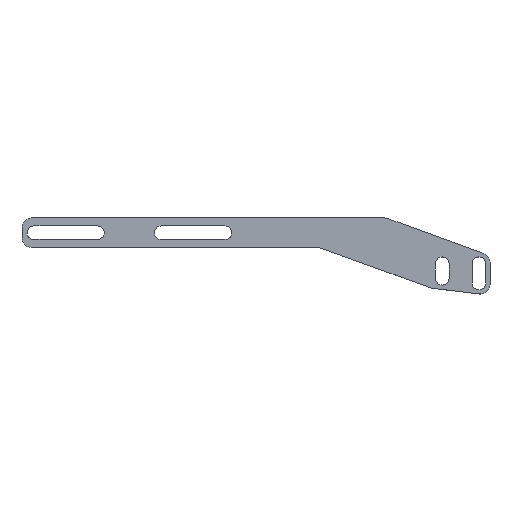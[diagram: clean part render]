
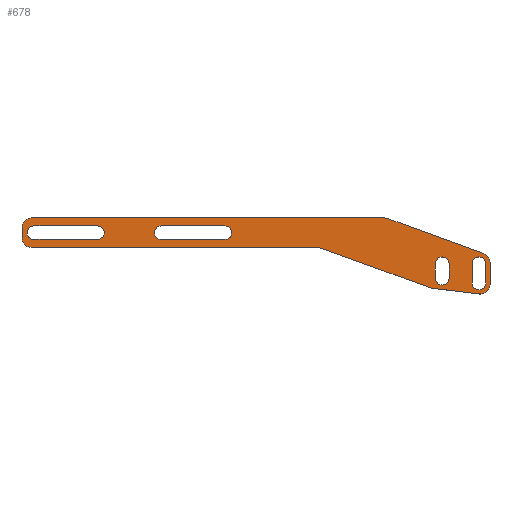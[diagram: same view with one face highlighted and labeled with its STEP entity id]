
A CAD part, top view. The second image highlights one B-rep face of the part: STEP entity #678.
In plain terms, the highlighted planar face has unit normal (0, 0, 1).
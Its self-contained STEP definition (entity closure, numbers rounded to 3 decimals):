
#19=FACE_BOUND('',#113,.T.);
#20=FACE_BOUND('',#114,.T.);
#21=FACE_BOUND('',#115,.T.);
#22=FACE_BOUND('',#116,.T.);
#40=PLANE('',#767);
#74=FACE_OUTER_BOUND('',#112,.T.);
#112=EDGE_LOOP('',(#597,#598,#599,#600,#601,#602,#603,#604,#605,#606,#607,
#608,#609,#610,#611,#612));
#113=EDGE_LOOP('',(#613,#614,#615,#616));
#114=EDGE_LOOP('',(#617,#618,#619,#620));
#115=EDGE_LOOP('',(#621,#622,#623,#624));
#116=EDGE_LOOP('',(#625,#626,#627,#628));
#121=LINE('',#981,#185);
#139=LINE('',#1049,#203);
#142=LINE('',#1057,#206);
#145=LINE('',#1066,#209);
#150=LINE('',#1079,#214);
#153=LINE('',#1087,#217);
#157=LINE('',#1100,#221);
#160=LINE('',#1107,#224);
#163=LINE('',#1116,#227);
#166=LINE('',#1123,#230);
#169=LINE('',#1132,#233);
#172=LINE('',#1139,#236);
#175=LINE('',#1148,#239);
#178=LINE('',#1155,#242);
#179=LINE('',#1157,#243);
#180=LINE('',#1159,#244);
#185=VECTOR('',#782,10.);
#203=VECTOR('',#838,10.);
#206=VECTOR('',#847,10.);
#209=VECTOR('',#856,10.);
#214=VECTOR('',#871,10.);
#217=VECTOR('',#880,10.);
#221=VECTOR('',#894,10.);
#224=VECTOR('',#903,10.);
#227=VECTOR('',#912,10.);
#230=VECTOR('',#921,10.);
#233=VECTOR('',#930,10.);
#236=VECTOR('',#939,10.);
#239=VECTOR('',#948,10.);
#242=VECTOR('',#957,10.);
#243=VECTOR('',#960,10.);
#244=VECTOR('',#963,10.);
#245=CIRCLE('',#703,6.);
#262=CIRCLE('',#723,6.);
#263=CIRCLE('',#726,6.);
#264=CIRCLE('',#729,6.);
#265=CIRCLE('',#732,6.);
#266=CIRCLE('',#734,6.);
#267=CIRCLE('',#737,6.);
#268=CIRCLE('',#740,6.);
#269=CIRCLE('',#742,4.25);
#270=CIRCLE('',#745,4.25);
#271=CIRCLE('',#748,4.25);
#272=CIRCLE('',#751,4.25);
#273=CIRCLE('',#754,4.25);
#274=CIRCLE('',#757,4.25);
#275=CIRCLE('',#760,4.25);
#276=CIRCLE('',#763,4.25);
#277=VERTEX_POINT('',#968);
#278=VERTEX_POINT('',#969);
#282=VERTEX_POINT('',#979);
#312=VERTEX_POINT('',#1043);
#313=VERTEX_POINT('',#1047);
#314=VERTEX_POINT('',#1051);
#315=VERTEX_POINT('',#1055);
#316=VERTEX_POINT('',#1059);
#317=VERTEX_POINT('',#1060);
#318=VERTEX_POINT('',#1065);
#319=VERTEX_POINT('',#1069);
#320=VERTEX_POINT('',#1073);
#321=VERTEX_POINT('',#1077);
#322=VERTEX_POINT('',#1081);
#323=VERTEX_POINT('',#1085);
#324=VERTEX_POINT('',#1089);
#325=VERTEX_POINT('',#1093);
#326=VERTEX_POINT('',#1094);
#327=VERTEX_POINT('',#1099);
#328=VERTEX_POINT('',#1103);
#329=VERTEX_POINT('',#1109);
#330=VERTEX_POINT('',#1110);
#331=VERTEX_POINT('',#1115);
#332=VERTEX_POINT('',#1119);
#333=VERTEX_POINT('',#1125);
#334=VERTEX_POINT('',#1126);
#335=VERTEX_POINT('',#1131);
#336=VERTEX_POINT('',#1135);
#337=VERTEX_POINT('',#1141);
#338=VERTEX_POINT('',#1142);
#339=VERTEX_POINT('',#1147);
#340=VERTEX_POINT('',#1151);
#341=EDGE_CURVE('',#277,#278,#245,.T.);
#347=EDGE_CURVE('',#277,#282,#121,.T.);
#378=EDGE_CURVE('',#312,#282,#262,.T.);
#381=EDGE_CURVE('',#312,#313,#139,.T.);
#383=EDGE_CURVE('',#314,#313,#263,.T.);
#385=EDGE_CURVE('',#314,#315,#142,.T.);
#386=EDGE_CURVE('',#316,#317,#264,.T.);
#389=EDGE_CURVE('',#318,#317,#145,.T.);
#391=EDGE_CURVE('',#318,#319,#265,.T.);
#393=EDGE_CURVE('',#320,#315,#266,.T.);
#396=EDGE_CURVE('',#320,#321,#150,.T.);
#397=EDGE_CURVE('',#322,#321,#267,.T.);
#400=EDGE_CURVE('',#322,#323,#153,.T.);
#401=EDGE_CURVE('',#324,#323,#268,.T.);
#403=EDGE_CURVE('',#325,#326,#269,.T.);
#406=EDGE_CURVE('',#326,#327,#157,.T.);
#408=EDGE_CURVE('',#327,#328,#270,.T.);
#410=EDGE_CURVE('',#328,#325,#160,.T.);
#411=EDGE_CURVE('',#329,#330,#271,.T.);
#414=EDGE_CURVE('',#330,#331,#163,.T.);
#416=EDGE_CURVE('',#331,#332,#272,.T.);
#418=EDGE_CURVE('',#332,#329,#166,.T.);
#419=EDGE_CURVE('',#333,#334,#273,.T.);
#422=EDGE_CURVE('',#334,#335,#169,.T.);
#424=EDGE_CURVE('',#335,#336,#274,.T.);
#426=EDGE_CURVE('',#336,#333,#172,.T.);
#427=EDGE_CURVE('',#337,#338,#275,.T.);
#430=EDGE_CURVE('',#338,#339,#175,.T.);
#432=EDGE_CURVE('',#339,#340,#276,.T.);
#434=EDGE_CURVE('',#340,#337,#178,.T.);
#435=EDGE_CURVE('',#316,#278,#179,.T.);
#436=EDGE_CURVE('',#324,#319,#180,.T.);
#597=ORIENTED_EDGE('',*,*,#341,.F.);
#598=ORIENTED_EDGE('',*,*,#347,.T.);
#599=ORIENTED_EDGE('',*,*,#378,.F.);
#600=ORIENTED_EDGE('',*,*,#381,.T.);
#601=ORIENTED_EDGE('',*,*,#383,.F.);
#602=ORIENTED_EDGE('',*,*,#385,.T.);
#603=ORIENTED_EDGE('',*,*,#393,.F.);
#604=ORIENTED_EDGE('',*,*,#396,.T.);
#605=ORIENTED_EDGE('',*,*,#397,.F.);
#606=ORIENTED_EDGE('',*,*,#400,.T.);
#607=ORIENTED_EDGE('',*,*,#401,.F.);
#608=ORIENTED_EDGE('',*,*,#436,.T.);
#609=ORIENTED_EDGE('',*,*,#391,.F.);
#610=ORIENTED_EDGE('',*,*,#389,.T.);
#611=ORIENTED_EDGE('',*,*,#386,.F.);
#612=ORIENTED_EDGE('',*,*,#435,.T.);
#613=ORIENTED_EDGE('',*,*,#408,.T.);
#614=ORIENTED_EDGE('',*,*,#410,.T.);
#615=ORIENTED_EDGE('',*,*,#403,.T.);
#616=ORIENTED_EDGE('',*,*,#406,.T.);
#617=ORIENTED_EDGE('',*,*,#416,.T.);
#618=ORIENTED_EDGE('',*,*,#418,.T.);
#619=ORIENTED_EDGE('',*,*,#411,.T.);
#620=ORIENTED_EDGE('',*,*,#414,.T.);
#621=ORIENTED_EDGE('',*,*,#424,.T.);
#622=ORIENTED_EDGE('',*,*,#426,.T.);
#623=ORIENTED_EDGE('',*,*,#419,.T.);
#624=ORIENTED_EDGE('',*,*,#422,.T.);
#625=ORIENTED_EDGE('',*,*,#432,.T.);
#626=ORIENTED_EDGE('',*,*,#434,.T.);
#627=ORIENTED_EDGE('',*,*,#427,.T.);
#628=ORIENTED_EDGE('',*,*,#430,.T.);
#678=ADVANCED_FACE('',(#74,#19,#20,#21,#22),#40,.T.);
#703=AXIS2_PLACEMENT_3D('',#970,#772,#773);
#723=AXIS2_PLACEMENT_3D('',#1044,#832,#833);
#726=AXIS2_PLACEMENT_3D('',#1053,#842,#843);
#729=AXIS2_PLACEMENT_3D('',#1061,#850,#851);
#732=AXIS2_PLACEMENT_3D('',#1070,#860,#861);
#734=AXIS2_PLACEMENT_3D('',#1074,#865,#866);
#737=AXIS2_PLACEMENT_3D('',#1082,#874,#875);
#740=AXIS2_PLACEMENT_3D('',#1090,#883,#884);
#742=AXIS2_PLACEMENT_3D('',#1095,#888,#889);
#745=AXIS2_PLACEMENT_3D('',#1104,#898,#899);
#748=AXIS2_PLACEMENT_3D('',#1111,#906,#907);
#751=AXIS2_PLACEMENT_3D('',#1120,#916,#917);
#754=AXIS2_PLACEMENT_3D('',#1127,#924,#925);
#757=AXIS2_PLACEMENT_3D('',#1136,#934,#935);
#760=AXIS2_PLACEMENT_3D('',#1143,#942,#943);
#763=AXIS2_PLACEMENT_3D('',#1152,#952,#953);
#767=AXIS2_PLACEMENT_3D('',#1160,#964,#965);
#772=DIRECTION('center_axis',(0.,0.,-1.));
#773=DIRECTION('ref_axis',(-0.707,0.707,0.));
#782=DIRECTION('',(0.,-1.,0.));
#832=DIRECTION('center_axis',(0.,0.,-1.));
#833=DIRECTION('ref_axis',(-0.707,-0.707,0.));
#838=DIRECTION('',(1.,0.,0.));
#842=DIRECTION('center_axis',(0.,0.,1.));
#843=DIRECTION('ref_axis',(0.174,0.985,0.));
#847=DIRECTION('',(0.94,-0.342,0.));
#850=DIRECTION('center_axis',(0.,0.,-1.));
#851=DIRECTION('ref_axis',(0.174,0.985,0.));
#856=DIRECTION('',(-0.94,0.342,0.));
#860=DIRECTION('center_axis',(0.,0.,-1.));
#861=DIRECTION('ref_axis',(0.819,0.574,0.));
#865=DIRECTION('center_axis',(0.,0.,-1.));
#866=DIRECTION('ref_axis',(-0.233,-0.972,0.));
#871=DIRECTION('',(0.993,-0.122,0.));
#874=DIRECTION('center_axis',(0.,0.,-1.));
#875=DIRECTION('ref_axis',(-0.061,-0.998,0.));
#880=DIRECTION('',(1.,0.,0.));
#883=DIRECTION('center_axis',(0.,0.,-1.));
#884=DIRECTION('ref_axis',(0.707,-0.707,0.));
#888=DIRECTION('center_axis',(0.,0.,-1.));
#889=DIRECTION('ref_axis',(1.,0.,0.));
#894=DIRECTION('',(0.,-1.,0.));
#898=DIRECTION('center_axis',(0.,0.,-1.));
#899=DIRECTION('ref_axis',(-1.,0.,0.));
#903=DIRECTION('',(0.,1.,0.));
#906=DIRECTION('center_axis',(0.,0.,-1.));
#907=DIRECTION('ref_axis',(1.,0.,0.));
#912=DIRECTION('',(0.,-1.,0.));
#916=DIRECTION('center_axis',(0.,0.,-1.));
#917=DIRECTION('ref_axis',(-1.,0.,0.));
#921=DIRECTION('',(0.,1.,0.));
#924=DIRECTION('center_axis',(0.,0.,-1.));
#925=DIRECTION('ref_axis',(0.,-1.,0.));
#930=DIRECTION('',(-1.,0.,0.));
#934=DIRECTION('center_axis',(0.,0.,-1.));
#935=DIRECTION('ref_axis',(0.,1.,0.));
#939=DIRECTION('',(1.,0.,0.));
#942=DIRECTION('center_axis',(0.,0.,-1.));
#943=DIRECTION('ref_axis',(0.,-1.,0.));
#948=DIRECTION('',(-1.,0.,0.));
#952=DIRECTION('center_axis',(0.,0.,-1.));
#953=DIRECTION('ref_axis',(0.,1.,0.));
#957=DIRECTION('',(1.,0.,0.));
#960=DIRECTION('',(-1.,0.,0.));
#963=DIRECTION('',(0.,1.,0.));
#964=DIRECTION('center_axis',(0.,0.,1.));
#965=DIRECTION('ref_axis',(1.,0.,0.));
#968=CARTESIAN_POINT('',(-147.5,12.5,4.));
#969=CARTESIAN_POINT('',(-141.5,18.5,4.));
#970=CARTESIAN_POINT('Origin',(-141.5,12.5,4.));
#979=CARTESIAN_POINT('',(-147.5,6.,4.));
#981=CARTESIAN_POINT('',(-147.5,18.5,4.));
#1043=CARTESIAN_POINT('',(-141.5,0.,4.));
#1044=CARTESIAN_POINT('Origin',(-141.5,6.,4.));
#1047=CARTESIAN_POINT('',(38.195,0.,4.));
#1049=CARTESIAN_POINT('',(-147.5,0.,4.));
#1051=CARTESIAN_POINT('',(40.248,-0.362,4.));
#1053=CARTESIAN_POINT('Origin',(38.195,-6.,4.));
#1055=CARTESIAN_POINT('',(108.853,-25.332,4.));
#1057=CARTESIAN_POINT('',(39.253,0.,4.));
#1059=CARTESIAN_POINT('',(80.327,18.5,4.));
#1060=CARTESIAN_POINT('',(82.379,18.138,4.));
#1061=CARTESIAN_POINT('Origin',(80.327,12.5,4.));
#1065=CARTESIAN_POINT('',(142.552,-3.763,4.));
#1066=CARTESIAN_POINT('',(146.5,-5.2,4.));
#1069=CARTESIAN_POINT('',(146.5,-9.401,4.));
#1070=CARTESIAN_POINT('Origin',(140.5,-9.401,4.));
#1073=CARTESIAN_POINT('',(110.174,-25.649,4.));
#1074=CARTESIAN_POINT('Origin',(110.905,-19.694,4.));
#1077=CARTESIAN_POINT('',(139.136,-29.205,4.));
#1079=CARTESIAN_POINT('',(109.495,-25.566,4.));
#1081=CARTESIAN_POINT('',(139.867,-29.25,4.));
#1082=CARTESIAN_POINT('Origin',(139.867,-23.25,4.));
#1085=CARTESIAN_POINT('',(140.5,-29.25,4.));
#1087=CARTESIAN_POINT('',(139.5,-29.25,4.));
#1089=CARTESIAN_POINT('',(146.5,-23.25,4.));
#1090=CARTESIAN_POINT('Origin',(140.5,-23.25,4.));
#1093=CARTESIAN_POINT('',(112.25,-10.25,4.));
#1094=CARTESIAN_POINT('',(120.75,-10.25,4.));
#1095=CARTESIAN_POINT('Origin',(116.5,-10.25,4.));
#1099=CARTESIAN_POINT('',(120.75,-19.41,4.));
#1100=CARTESIAN_POINT('',(120.75,-7.779,4.));
#1103=CARTESIAN_POINT('',(112.25,-19.41,4.));
#1104=CARTESIAN_POINT('Origin',(116.5,-19.41,4.));
#1107=CARTESIAN_POINT('',(112.25,-3.199,4.));
#1109=CARTESIAN_POINT('',(135.25,-10.25,4.));
#1110=CARTESIAN_POINT('',(143.75,-10.25,4.));
#1111=CARTESIAN_POINT('Origin',(139.5,-10.25,4.));
#1115=CARTESIAN_POINT('',(143.75,-22.234,4.));
#1116=CARTESIAN_POINT('',(143.75,-9.191,4.));
#1119=CARTESIAN_POINT('',(135.25,-22.234,4.));
#1120=CARTESIAN_POINT('Origin',(139.5,-22.234,4.));
#1123=CARTESIAN_POINT('',(135.25,-3.199,4.));
#1125=CARTESIAN_POINT('',(-100.,13.5,4.));
#1126=CARTESIAN_POINT('',(-100.,5.,4.));
#1127=CARTESIAN_POINT('Origin',(-100.,9.25,4.));
#1131=CARTESIAN_POINT('',(-140.,5.,4.));
#1132=CARTESIAN_POINT('',(-68.952,5.,4.));
#1135=CARTESIAN_POINT('',(-140.,13.5,4.));
#1136=CARTESIAN_POINT('Origin',(-140.,9.25,4.));
#1139=CARTESIAN_POINT('',(-48.952,13.5,4.));
#1141=CARTESIAN_POINT('',(-20.,13.5,4.));
#1142=CARTESIAN_POINT('',(-20.,5.,4.));
#1143=CARTESIAN_POINT('Origin',(-20.,9.25,4.));
#1147=CARTESIAN_POINT('',(-60.,5.,4.));
#1148=CARTESIAN_POINT('',(-28.952,5.,4.));
#1151=CARTESIAN_POINT('',(-60.,13.5,4.));
#1152=CARTESIAN_POINT('Origin',(-60.,9.25,4.));
#1155=CARTESIAN_POINT('',(-8.952,13.5,4.));
#1157=CARTESIAN_POINT('',(81.385,18.5,4.));
#1159=CARTESIAN_POINT('',(146.5,-29.25,4.));
#1160=CARTESIAN_POINT('Origin',(2.096,3.852,4.));
